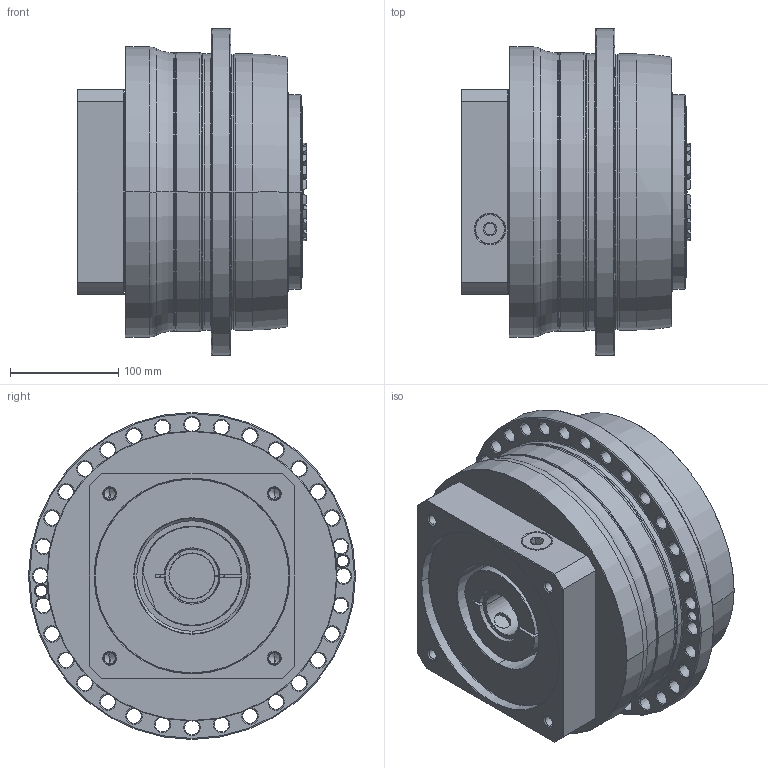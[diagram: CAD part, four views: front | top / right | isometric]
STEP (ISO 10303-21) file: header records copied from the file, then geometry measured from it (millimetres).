
FILE_DESCRIPTION((''),'2;1');
FILE_NAME('APC255_1ST_42-P0409A00201_ASM','2018-06-27T',('d01226'),(''),'PRO/ENGINEER BY PARAMETRIC TECHNOLOGY CORPORATION, 2008410','PRO/ENGINEER BY PARAMETRIC TECHNOLOGY CORPORATION, 2008410','');
FILE_SCHEMA(('CONFIG_CONTROL_DESIGN'));
Length unit declared in the file: millimetre
Products named in the file (9): P0278701003; P0359770103; P1318710201; P0503A00012; P0912702001; P1211700001; P0409A00201; 21711422019; APC255_1ST_42-P0409A00201_ASM
Assembly tree (8 placements, depth 2):
  APC255_1ST_42-P0409A00201_ASM
    P0278701003
    P0359770103
    P1318710201
    P0503A00012
    P0912702001
    P1211700001
    P0409A00201
    21711422019
Bounding box: 212.1 x 302 x 302 mm (x, y, z)
Volume: 8905318.4 mm3; surface area: 747232.7 mm2
Topology: 9 solids, 21 shells, 763 faces, 1873 edges, 1143 vertices
Faces by surface type: cone 276, cylinder 234, plane 131, torus 108, bspline 14
Entity records: 27894 total; most frequent: CARTESIAN_POINT 9391, DIRECTION 4141, ORIENTED_EDGE 3660, EDGE_CURVE 1855, AXIS2_PLACEMENT_3D 1799, VERTEX_POINT 1143, CIRCLE 1021, EDGE_LOOP 880
